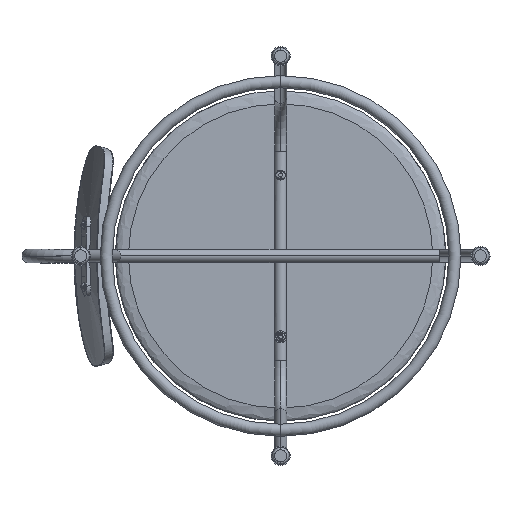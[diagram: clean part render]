
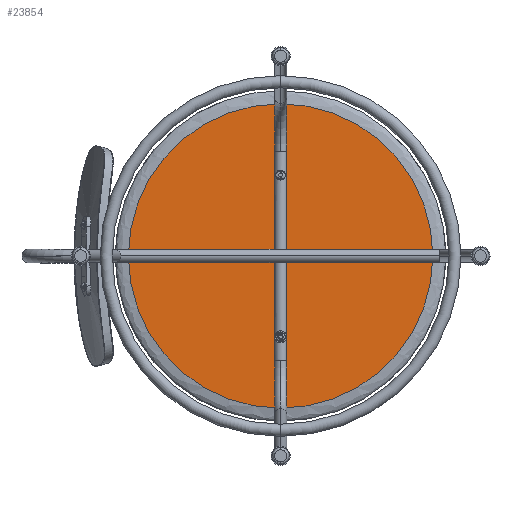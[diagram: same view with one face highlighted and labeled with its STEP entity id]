
A CAD part, front view. The second image highlights one B-rep face of the part: STEP entity #23854.
In plain terms, the highlighted planar face has unit normal (0, -1, 0).
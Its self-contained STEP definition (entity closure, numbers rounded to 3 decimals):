
#526 = DIRECTION ( 'NONE',  ( 0., -1., 0. ) ) ;
#670 = CIRCLE ( 'NONE', #16757, 5.2 ) ;
#771 = EDGE_LOOP ( 'NONE', ( #22410, #18353 ) ) ;
#1061 = DIRECTION ( 'NONE',  ( 1., 0., 0. ) ) ;
#1293 = CARTESIAN_POINT ( 'NONE',  ( -69.247, 270.536, 974.439 ) ) ;
#1396 = DIRECTION ( 'NONE',  ( 0., -1., 0. ) ) ;
#1524 = AXIS2_PLACEMENT_3D ( 'NONE', #2939, #526, #15652 ) ;
#1592 = AXIS2_PLACEMENT_3D ( 'NONE', #16923, #27930, #19247 ) ;
#1971 = CIRCLE ( 'NONE', #4260, 5.2 ) ;
#2171 = VERTEX_POINT ( 'NONE', #13299 ) ;
#2435 = CIRCLE ( 'NONE', #6124, 175. ) ;
#2782 = EDGE_CURVE ( 'NONE', #24845, #28013, #2435, .T. ) ;
#2810 = ORIENTED_EDGE ( 'NONE', *, *, #2782, .T. ) ;
#2887 = AXIS2_PLACEMENT_3D ( 'NONE', #20267, #26666, #6855 ) ;
#2939 = CARTESIAN_POINT ( 'NONE',  ( 23.753, 270.536, 974.439 ) ) ;
#3270 = CARTESIAN_POINT ( 'NONE',  ( 105.753, 270.536, 974.439 ) ) ;
#4260 = AXIS2_PLACEMENT_3D ( 'NONE', #26339, #17059, #10587 ) ;
#4490 = ORIENTED_EDGE ( 'NONE', *, *, #8785, .F. ) ;
#4995 = EDGE_CURVE ( 'NONE', #13988, #22540, #19953, .T. ) ;
#5021 = EDGE_CURVE ( 'NONE', #7504, #16586, #6579, .T. ) ;
#5054 = ORIENTED_EDGE ( 'NONE', *, *, #24620, .F. ) ;
#5606 = FACE_BOUND ( 'NONE', #771, .T. ) ;
#5640 = VERTEX_POINT ( 'NONE', #16603 ) ;
#6124 = AXIS2_PLACEMENT_3D ( 'NONE', #18451, #22647, #20050 ) ;
#6202 = EDGE_LOOP ( 'NONE', ( #5054, #13116 ) ) ;
#6451 = CARTESIAN_POINT ( 'NONE',  ( 23.753, 270.536, 974.439 ) ) ;
#6579 = CIRCLE ( 'NONE', #1524, 5.2 ) ;
#6660 = EDGE_CURVE ( 'NONE', #20646, #2171, #19707, .T. ) ;
#6855 = DIRECTION ( 'NONE',  ( 1., 0., 0. ) ) ;
#7175 = AXIS2_PLACEMENT_3D ( 'NONE', #16806, #1396, #25508 ) ;
#7504 = VERTEX_POINT ( 'NONE', #23626 ) ;
#7597 = AXIS2_PLACEMENT_3D ( 'NONE', #17043, #25884, #15738 ) ;
#7632 = FACE_BOUND ( 'NONE', #25707, .T. ) ;
#7768 = FACE_BOUND ( 'NONE', #20804, .T. ) ;
#8486 = AXIS2_PLACEMENT_3D ( 'NONE', #6451, #17706, #15537 ) ;
#8785 = EDGE_CURVE ( 'NONE', #26458, #5640, #670, .T. ) ;
#9523 = DIRECTION ( 'NONE',  ( -1., 0., 0. ) ) ;
#9588 = CARTESIAN_POINT ( 'NONE',  ( -74.447, 270.536, 881.439 ) ) ;
#9656 = FACE_BOUND ( 'NONE', #6202, .T. ) ;
#10004 = ORIENTED_EDGE ( 'NONE', *, *, #23434, .F. ) ;
#10587 = DIRECTION ( 'NONE',  ( 1., 0., 0. ) ) ;
#11228 = CARTESIAN_POINT ( 'NONE',  ( -69.247, 270.536, 881.439 ) ) ;
#11322 = CIRCLE ( 'NONE', #7175, 175. ) ;
#12181 = AXIS2_PLACEMENT_3D ( 'NONE', #1293, #27294, #9523 ) ;
#13116 = ORIENTED_EDGE ( 'NONE', *, *, #6660, .F. ) ;
#13299 = CARTESIAN_POINT ( 'NONE',  ( -64.047, 270.536, 881.439 ) ) ;
#13841 = PLANE ( 'NONE',  #12181 ) ;
#13988 = VERTEX_POINT ( 'NONE', #14749 ) ;
#14704 = EDGE_LOOP ( 'NONE', ( #2810, #20395 ) ) ;
#14749 = CARTESIAN_POINT ( 'NONE',  ( -167.447, 270.536, 974.439 ) ) ;
#15537 = DIRECTION ( 'NONE',  ( 1., 0., 0. ) ) ;
#15652 = DIRECTION ( 'NONE',  ( 1., 0., 0. ) ) ;
#15738 = DIRECTION ( 'NONE',  ( 1., 0., 0. ) ) ;
#15886 = CIRCLE ( 'NONE', #1592, 5.2 ) ;
#16586 = VERTEX_POINT ( 'NONE', #18124 ) ;
#16603 = CARTESIAN_POINT ( 'NONE',  ( -64.047, 270.536, 1067.439 ) ) ;
#16757 = AXIS2_PLACEMENT_3D ( 'NONE', #21099, #27342, #1061 ) ;
#16806 = CARTESIAN_POINT ( 'NONE',  ( -69.247, 270.536, 974.439 ) ) ;
#16923 = CARTESIAN_POINT ( 'NONE',  ( -69.247, 270.536, 881.439 ) ) ;
#17043 = CARTESIAN_POINT ( 'NONE',  ( -69.247, 270.536, 1067.439 ) ) ;
#17059 = DIRECTION ( 'NONE',  ( 0., -1., 0. ) ) ;
#17498 = CARTESIAN_POINT ( 'NONE',  ( -244.247, 270.536, 974.439 ) ) ;
#17706 = DIRECTION ( 'NONE',  ( 0., -1., 0. ) ) ;
#18006 = DIRECTION ( 'NONE',  ( 0., -1., 0. ) ) ;
#18124 = CARTESIAN_POINT ( 'NONE',  ( 28.953, 270.536, 974.439 ) ) ;
#18353 = ORIENTED_EDGE ( 'NONE', *, *, #4995, .F. ) ;
#18451 = CARTESIAN_POINT ( 'NONE',  ( -69.247, 270.536, 974.439 ) ) ;
#18455 = FACE_OUTER_BOUND ( 'NONE', #14704, .T. ) ;
#19247 = DIRECTION ( 'NONE',  ( 1., 0., 0. ) ) ;
#19707 = CIRCLE ( 'NONE', #22481, 5.2 ) ;
#19953 = CIRCLE ( 'NONE', #2887, 5.2 ) ;
#20043 = CIRCLE ( 'NONE', #7597, 5.2 ) ;
#20050 = DIRECTION ( 'NONE',  ( 1., 0., 0. ) ) ;
#20267 = CARTESIAN_POINT ( 'NONE',  ( -162.247, 270.536, 974.439 ) ) ;
#20395 = ORIENTED_EDGE ( 'NONE', *, *, #26240, .T. ) ;
#20646 = VERTEX_POINT ( 'NONE', #9588 ) ;
#20804 = EDGE_LOOP ( 'NONE', ( #10004, #25150 ) ) ;
#20903 = EDGE_CURVE ( 'NONE', #22540, #13988, #1971, .T. ) ;
#21099 = CARTESIAN_POINT ( 'NONE',  ( -69.247, 270.536, 1067.439 ) ) ;
#21905 = DIRECTION ( 'NONE',  ( 1., 0., 0. ) ) ;
#22410 = ORIENTED_EDGE ( 'NONE', *, *, #20903, .F. ) ;
#22481 = AXIS2_PLACEMENT_3D ( 'NONE', #11228, #18006, #21905 ) ;
#22540 = VERTEX_POINT ( 'NONE', #25889 ) ;
#22647 = DIRECTION ( 'NONE',  ( 0., -1., 0. ) ) ;
#23434 = EDGE_CURVE ( 'NONE', #16586, #7504, #26494, .T. ) ;
#23626 = CARTESIAN_POINT ( 'NONE',  ( 18.553, 270.536, 974.439 ) ) ;
#23854 = ADVANCED_FACE ( 'NONE', ( #5606, #9656, #7768, #7632, #18455 ), #13841, .F. ) ;
#24366 = ORIENTED_EDGE ( 'NONE', *, *, #28524, .F. ) ;
#24620 = EDGE_CURVE ( 'NONE', #2171, #20646, #15886, .T. ) ;
#24845 = VERTEX_POINT ( 'NONE', #17498 ) ;
#25150 = ORIENTED_EDGE ( 'NONE', *, *, #5021, .F. ) ;
#25508 = DIRECTION ( 'NONE',  ( 1., 0., 0. ) ) ;
#25707 = EDGE_LOOP ( 'NONE', ( #24366, #4490 ) ) ;
#25884 = DIRECTION ( 'NONE',  ( 0., -1., 0. ) ) ;
#25889 = CARTESIAN_POINT ( 'NONE',  ( -157.047, 270.536, 974.439 ) ) ;
#26048 = CARTESIAN_POINT ( 'NONE',  ( -74.447, 270.536, 1067.439 ) ) ;
#26240 = EDGE_CURVE ( 'NONE', #28013, #24845, #11322, .T. ) ;
#26339 = CARTESIAN_POINT ( 'NONE',  ( -162.247, 270.536, 974.439 ) ) ;
#26458 = VERTEX_POINT ( 'NONE', #26048 ) ;
#26494 = CIRCLE ( 'NONE', #8486, 5.2 ) ;
#26666 = DIRECTION ( 'NONE',  ( 0., -1., 0. ) ) ;
#27294 = DIRECTION ( 'NONE',  ( 0., 1., 0. ) ) ;
#27342 = DIRECTION ( 'NONE',  ( 0., -1., 0. ) ) ;
#27930 = DIRECTION ( 'NONE',  ( 0., -1., 0. ) ) ;
#28013 = VERTEX_POINT ( 'NONE', #3270 ) ;
#28524 = EDGE_CURVE ( 'NONE', #5640, #26458, #20043, .T. ) ;
